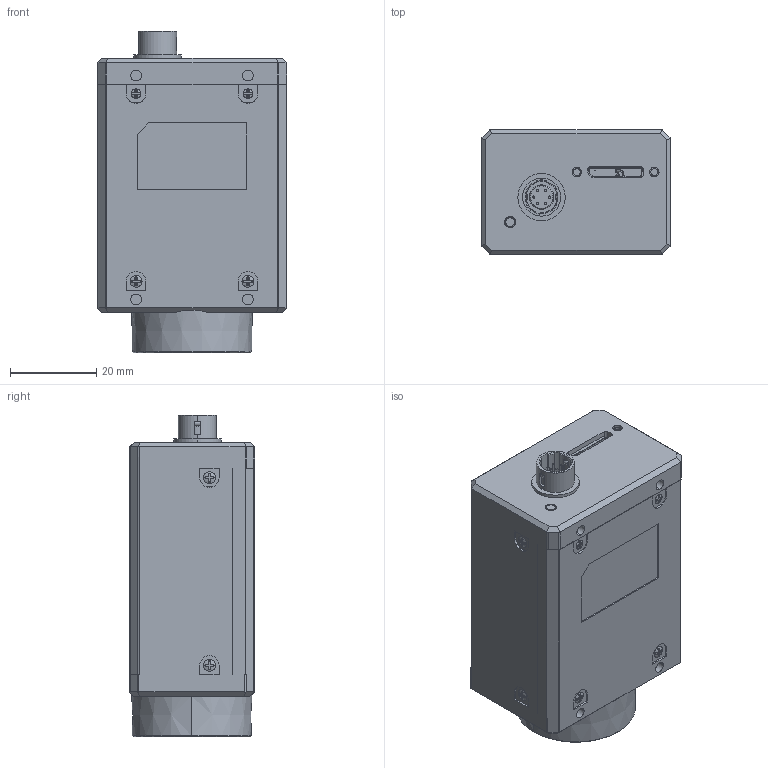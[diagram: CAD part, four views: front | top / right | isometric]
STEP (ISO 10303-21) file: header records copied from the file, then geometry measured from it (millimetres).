
FILE_DESCRIPTION((''),'2;1');
FILE_NAME('001_ASM','2023-06-13T15:54:50',('gengdawei'),(''),'CREO PARAMETRIC BY PTC INC, 2020044','CREO PARAMETRIC BY PTC INC, 2020044','');
FILE_SCHEMA(('CONFIG_CONTROL_DESIGN'));
Length unit declared in the file: millimetre
Products named in the file (1): 001_ASM
Bounding box: 44 x 29.1 x 74.69 mm (x, y, z)
Volume: 74056.2 mm3; surface area: 16530.8 mm2
Topology: 1 solids, 8 shells, 1302 faces, 3485 edges, 2212 vertices
Faces by surface type: plane 560, cylinder 275, cone 185, torus 134, bspline 128, sphere 20
Entity records: 47727 total; most frequent: CARTESIAN_POINT 15631, ORIENTED_EDGE 6922, DIRECTION 6619, EDGE_CURVE 3461, AXIS2_PLACEMENT_3D 2484, VERTEX_POINT 2212, VECTOR 1651, LINE 1651
